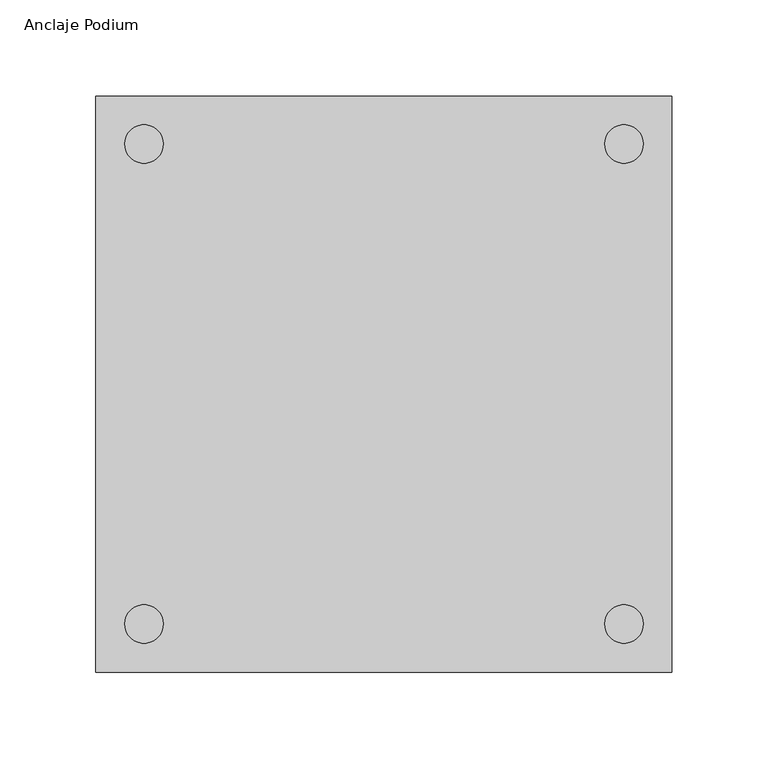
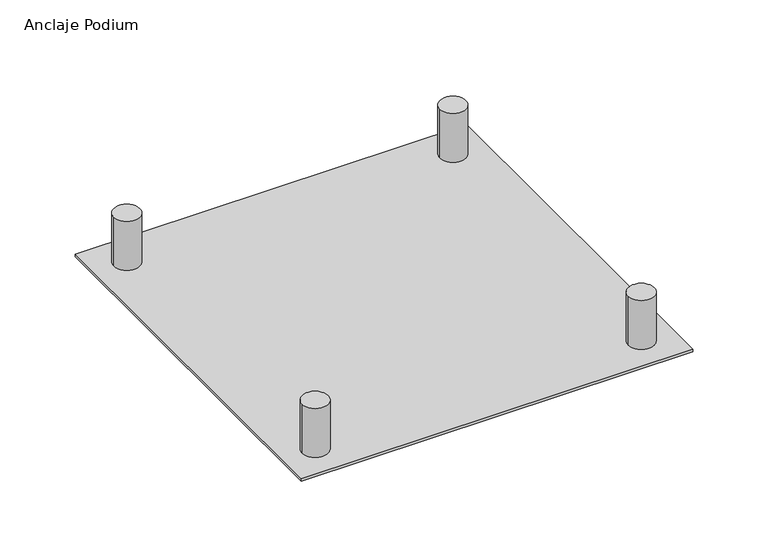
"""IFC4 building model written with IfcOpenShell, lengths in millimetres: plate geometry, FES_S_ANCHORING_FOR_STARTING_BLOCK_SS : Anclaje Podium."""

from ifc_helpers import new_model, si_unit, point, frame, frame_2d, origin, place, context, project, spatial, polyline, circle_curve, trimmed, segment, composite_curve, outline, extrude, source, transform, mapped, element, save


def anclaje_podium_78d7be8b(model_context):
    return source(origin(), model_context, "Body", "SweptSolid", [
        extrude(outline(polyline([(150.0, -150.0), (-150.0, -150.0), (-150.0, 150.0), (150.0, 150.0), (150.0, -150.0)])), frame((0.0, 0.0, -42.0), z_axis=(0.0, 0.0, 1.0), x_axis=(1.0, 0.0, 0.0)), (0.0, 0.0, 1.0), 2.0),
        extrude(outline(composite_curve([segment(trimmed(circle_curve(frame_2d((-125.0, 125.0)), 10.0), [point((-135.0, 125.0))], [point((-115.0, 125.0))], False, "CARTESIAN"), True, "CONTINUOUS"), segment(trimmed(circle_curve(frame_2d((-125.0, 125.0)), 10.0), [point((-115.0, 125.0))], [point((-135.0, 125.0))], False, "CARTESIAN"), True, "CONTINUOUS")], self_intersect=False)), frame((0.0, 0.0, -40.0), z_axis=(0.0, 0.0, 1.0), x_axis=(1.0, 0.0, 0.0)), (0.0, 0.0, 1.0), 40.0),
        extrude(outline(composite_curve([segment(trimmed(circle_curve(frame_2d((125.0, 125.0)), 10.0), [point((115.0, 125.0))], [point((135.0, 125.0))], False, "CARTESIAN"), True, "CONTINUOUS"), segment(trimmed(circle_curve(frame_2d((125.0, 125.0)), 10.0), [point((135.0, 125.0))], [point((115.0, 125.0))], False, "CARTESIAN"), True, "CONTINUOUS")], self_intersect=False)), frame((0.0, 0.0, -40.0), z_axis=(0.0, 0.0, 1.0), x_axis=(1.0, 0.0, 0.0)), (0.0, 0.0, 1.0), 40.0),
        extrude(outline(composite_curve([segment(trimmed(circle_curve(frame_2d((125.0, -125.0)), 10.0), [point((115.0, -125.0))], [point((135.0, -125.0))], False, "CARTESIAN"), True, "CONTINUOUS"), segment(trimmed(circle_curve(frame_2d((125.0, -125.0)), 10.0), [point((135.0, -125.0))], [point((115.0, -125.0))], False, "CARTESIAN"), True, "CONTINUOUS")], self_intersect=False)), frame((0.0, 0.0, -40.0), z_axis=(0.0, 0.0, 1.0), x_axis=(1.0, 0.0, 0.0)), (0.0, 0.0, 1.0), 40.0),
        extrude(outline(composite_curve([segment(trimmed(circle_curve(frame_2d((-125.0, -125.0)), 10.0), [point((-135.0, -125.0))], [point((-115.0, -125.0))], False, "CARTESIAN"), True, "CONTINUOUS"), segment(trimmed(circle_curve(frame_2d((-125.0, -125.0)), 10.0), [point((-115.0, -125.0))], [point((-135.0, -125.0))], False, "CARTESIAN"), True, "CONTINUOUS")], self_intersect=False)), frame((0.0, 0.0, -40.0), z_axis=(0.0, 0.0, 1.0), x_axis=(1.0, 0.0, 0.0)), (0.0, 0.0, 1.0), 40.0),
    ])


if __name__ == "__main__":
    model = new_model("IFC4")
    model_context = context("Model", 3, world=origin())
    ifc_project = project(units=[si_unit("LENGTHUNIT", "METRE", prefix="MILLI")], contexts=[model_context])
    site = spatial("IfcSite", under=ifc_project)
    building = spatial("IfcBuilding", under=site)
    placement = place(None, origin())
    anclaje_podium_shape = anclaje_podium_78d7be8b(model_context)
    element("IfcPlate", 1, ObjectType="FES_S_ANCHORING_FOR_STARTING_BLOCK_SS : Anclaje Podium", at=placement, inside=building, context=model_context, shape_type="MappedRepresentation", body=[
        mapped(anclaje_podium_shape, transform((0.0, 0.0, 0.0), x_axis=(1.0, 0.0, 0.0), y_axis=(0.0, 1.0, 0.0), z_axis=(0.0, 0.0, 1.0))),
    ])
    save(model, "model.ifc")
